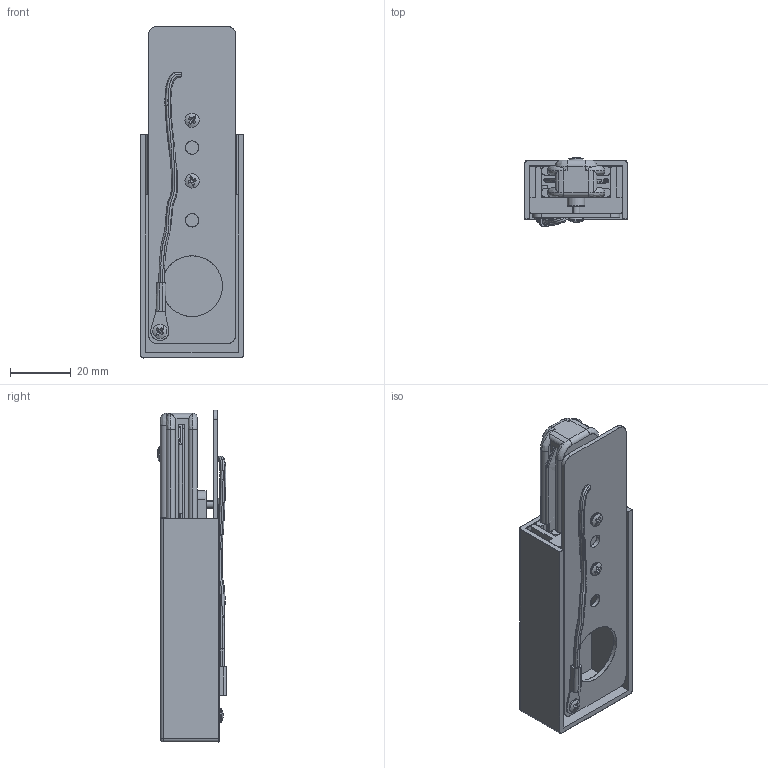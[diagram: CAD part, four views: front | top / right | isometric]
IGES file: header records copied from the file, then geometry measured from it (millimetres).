
Start section: SolidWorks IGES file using analytic representation for surfaces
Global section: file name: D:\Nowodworski\Modele 3D\Lampy\PROFILE TRACK\z³o¿enie 9462, 9463, profile power end cap dla Asi.IGS; native system: SolidWorks 2017; preprocessor: SolidWorks 2017; author: DELL; date: 190702.135111; units: millimetre
Bounding box: 34 x 22.75 x 109.5 mm (x, y, z)
Surface area: 28783.2 mm2 (no closed solid volume)
Topology: 0 solids, 0 shells, 525 faces, 4786 edges, 4772 vertices
Faces by surface type: bspline 325, revolution 200
